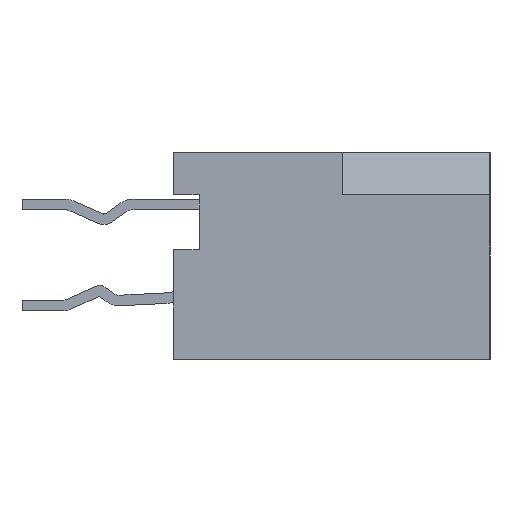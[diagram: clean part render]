
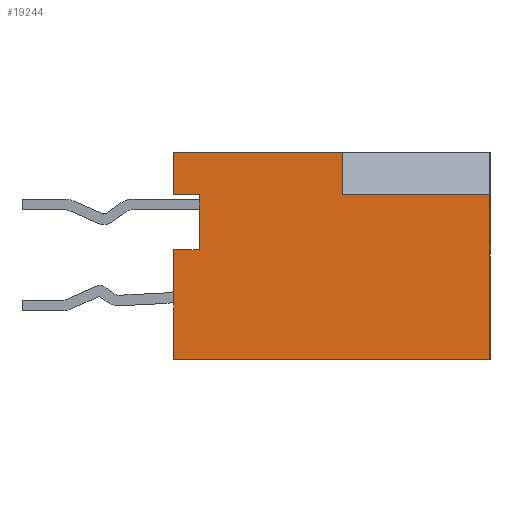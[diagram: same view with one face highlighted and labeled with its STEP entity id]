
A CAD part, left-side view. The second image highlights one B-rep face of the part: STEP entity #19244.
In plain terms, the highlighted planar face has unit normal (-1, 0, 0).
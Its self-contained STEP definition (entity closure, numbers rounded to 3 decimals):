
#113 = VERTEX_POINT ( 'NONE', #4990 ) ;
#145 = LINE ( 'NONE', #14015, #6288 ) ;
#743 = VERTEX_POINT ( 'NONE', #9424 ) ;
#819 = ORIENTED_EDGE ( 'NONE', *, *, #13410, .F. ) ;
#877 = LINE ( 'NONE', #1573, #10375 ) ;
#974 = LINE ( 'NONE', #19030, #22250 ) ;
#1573 = CARTESIAN_POINT ( 'NONE',  ( -17.4, 3.75, 2.45 ) ) ;
#1848 = PLANE ( 'NONE',  #2536 ) ;
#2536 = AXIS2_PLACEMENT_3D ( 'NONE', #8840, #7094, #14081 ) ;
#2812 = DIRECTION ( 'NONE',  ( 0., 0., 1. ) ) ;
#3081 = DIRECTION ( 'NONE',  ( 0., 0., 1. ) ) ;
#4295 = ORIENTED_EDGE ( 'NONE', *, *, #14008, .F. ) ;
#4880 = EDGE_CURVE ( 'NONE', #17927, #113, #20046, .T. ) ;
#4990 = CARTESIAN_POINT ( 'NONE',  ( -17.4, 3.15, 0.15 ) ) ;
#5005 = CARTESIAN_POINT ( 'NONE',  ( -17.4, 3.75, -2.45 ) ) ;
#5060 = DIRECTION ( 'NONE',  ( 0., -1., 0. ) ) ;
#5261 = LINE ( 'NONE', #6785, #18588 ) ;
#5782 = DIRECTION ( 'NONE',  ( 0., -1., 0. ) ) ;
#6288 = VECTOR ( 'NONE', #13911, 1000. ) ;
#6430 = CARTESIAN_POINT ( 'NONE',  ( -17.4, 3.75, 1.45 ) ) ;
#6756 = VERTEX_POINT ( 'NONE', #11171 ) ;
#6785 = CARTESIAN_POINT ( 'NONE',  ( -17.4, -3.75, -2.45 ) ) ;
#6859 = VERTEX_POINT ( 'NONE', #13129 ) ;
#7025 = CARTESIAN_POINT ( 'NONE',  ( -17.4, -3.75, 1.45 ) ) ;
#7070 = EDGE_LOOP ( 'NONE', ( #4295, #9398, #9970, #8880, #20068, #819, #10110, #10644, #12408, #11623 ) ) ;
#7094 = DIRECTION ( 'NONE',  ( -1., 0., 0. ) ) ;
#7722 = EDGE_CURVE ( 'NONE', #6756, #743, #9509, .T. ) ;
#8334 = VERTEX_POINT ( 'NONE', #7025 ) ;
#8840 = CARTESIAN_POINT ( 'NONE',  ( -17.4, 3.75, -2.45 ) ) ;
#8880 = ORIENTED_EDGE ( 'NONE', *, *, #14118, .T. ) ;
#9108 = CARTESIAN_POINT ( 'NONE',  ( -17.4, 3.75, 0.15 ) ) ;
#9365 = VERTEX_POINT ( 'NONE', #16333 ) ;
#9398 = ORIENTED_EDGE ( 'NONE', *, *, #19184, .T. ) ;
#9424 = CARTESIAN_POINT ( 'NONE',  ( -17.4, 3.15, 1.45 ) ) ;
#9443 = CARTESIAN_POINT ( 'NONE',  ( -17.4, -0.25, 2.45 ) ) ;
#9509 = LINE ( 'NONE', #21734, #22213 ) ;
#9833 = CARTESIAN_POINT ( 'NONE',  ( -17.4, 3.75, -2.45 ) ) ;
#9970 = ORIENTED_EDGE ( 'NONE', *, *, #15550, .T. ) ;
#10110 = ORIENTED_EDGE ( 'NONE', *, *, #15459, .F. ) ;
#10375 = VECTOR ( 'NONE', #5060, 1000. ) ;
#10644 = ORIENTED_EDGE ( 'NONE', *, *, #7722, .T. ) ;
#11171 = CARTESIAN_POINT ( 'NONE',  ( -17.4, 3.75, 1.45 ) ) ;
#11205 = VERTEX_POINT ( 'NONE', #9833 ) ;
#11623 = ORIENTED_EDGE ( 'NONE', *, *, #4880, .F. ) ;
#12408 = ORIENTED_EDGE ( 'NONE', *, *, #15784, .F. ) ;
#12550 = FACE_OUTER_BOUND ( 'NONE', #7070, .T. ) ;
#12704 = CARTESIAN_POINT ( 'NONE',  ( -17.4, 3.75, 2.45 ) ) ;
#12837 = VERTEX_POINT ( 'NONE', #17824 ) ;
#13129 = CARTESIAN_POINT ( 'NONE',  ( -17.4, -0.25, 2.45 ) ) ;
#13410 = EDGE_CURVE ( 'NONE', #15821, #6859, #877, .T. ) ;
#13911 = DIRECTION ( 'NONE',  ( 0., 1., 0. ) ) ;
#13966 = DIRECTION ( 'NONE',  ( 0., -1., 0. ) ) ;
#14008 = EDGE_CURVE ( 'NONE', #11205, #17927, #974, .T. ) ;
#14015 = CARTESIAN_POINT ( 'NONE',  ( -17.4, -3.75, 1.45 ) ) ;
#14081 = DIRECTION ( 'NONE',  ( 0., 0., 1. ) ) ;
#14118 = EDGE_CURVE ( 'NONE', #8334, #9365, #145, .T. ) ;
#14573 = DIRECTION ( 'NONE',  ( 0., 0., 1. ) ) ;
#15459 = EDGE_CURVE ( 'NONE', #6756, #15821, #22379, .T. ) ;
#15550 = EDGE_CURVE ( 'NONE', #12837, #8334, #5261, .T. ) ;
#15610 = LINE ( 'NONE', #5005, #15865 ) ;
#15750 = DIRECTION ( 'NONE',  ( 0., 0., 1. ) ) ;
#15784 = EDGE_CURVE ( 'NONE', #113, #743, #16536, .T. ) ;
#15821 = VERTEX_POINT ( 'NONE', #12704 ) ;
#15865 = VECTOR ( 'NONE', #13966, 1000. ) ;
#15927 = VECTOR ( 'NONE', #16530, 1000. ) ;
#16201 = DIRECTION ( 'NONE',  ( 0., -1., 0. ) ) ;
#16333 = CARTESIAN_POINT ( 'NONE',  ( -17.4, -0.25, 1.45 ) ) ;
#16530 = DIRECTION ( 'NONE',  ( 0., 0., -1. ) ) ;
#16536 = LINE ( 'NONE', #18284, #20445 ) ;
#17824 = CARTESIAN_POINT ( 'NONE',  ( -17.4, -3.75, -2.45 ) ) ;
#17927 = VERTEX_POINT ( 'NONE', #22573 ) ;
#18284 = CARTESIAN_POINT ( 'NONE',  ( -17.4, 3.15, 0.15 ) ) ;
#18588 = VECTOR ( 'NONE', #15750, 1000. ) ;
#18737 = LINE ( 'NONE', #9443, #15927 ) ;
#19012 = EDGE_CURVE ( 'NONE', #6859, #9365, #18737, .T. ) ;
#19030 = CARTESIAN_POINT ( 'NONE',  ( -17.4, 3.75, -2.45 ) ) ;
#19184 = EDGE_CURVE ( 'NONE', #11205, #12837, #15610, .T. ) ;
#19244 = ADVANCED_FACE ( 'NONE', ( #12550 ), #1848, .T. ) ;
#20046 = LINE ( 'NONE', #9108, #22409 ) ;
#20068 = ORIENTED_EDGE ( 'NONE', *, *, #19012, .F. ) ;
#20445 = VECTOR ( 'NONE', #14573, 1000. ) ;
#21734 = CARTESIAN_POINT ( 'NONE',  ( -17.4, 3.75, 1.45 ) ) ;
#22213 = VECTOR ( 'NONE', #5782, 1000. ) ;
#22250 = VECTOR ( 'NONE', #3081, 1000. ) ;
#22310 = VECTOR ( 'NONE', #2812, 1000. ) ;
#22379 = LINE ( 'NONE', #6430, #22310 ) ;
#22409 = VECTOR ( 'NONE', #16201, 1000. ) ;
#22573 = CARTESIAN_POINT ( 'NONE',  ( -17.4, 3.75, 0.15 ) ) ;
